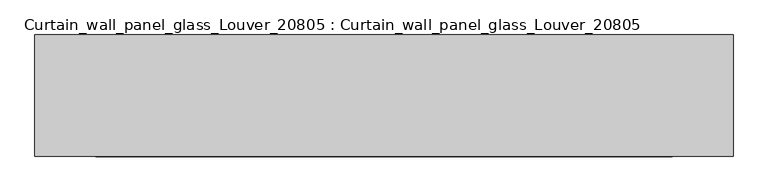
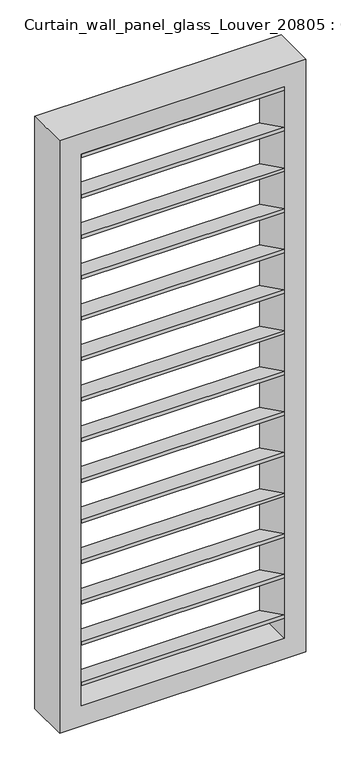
"""IFC4 building model written with IfcOpenShell, lengths in millimetres: plate geometry, Curtain_wall_panel_glass_Louver_20805 : Curtain_wall_panel_glass_Louver_20805."""

from ifc_helpers import new_model, si_unit, frame, origin, place, context, project, spatial, polyline, outline, extrude, source, transform, mapped, element, save


def curtain_wall_panel_glass_louver_20805_curtain_wall_panel_0dcabbaa(model_context):
    return source(origin(), model_context, "Body", "SweptSolid", [
        extrude(outline(polyline([(-200.0, 199.3849981), (-200.0, 216.1349309), (0.0, 116.7499328), (0.0, 100.0), (-200.0, 199.3849981)])), frame((-475.0000001, 0.0, 0.0), z_axis=(1.0, 0.0, 0.0), x_axis=(0.0, 1.0, 0.0)), (0.0, 0.0, 1.0), 950.0000001),
        extrude(outline(polyline([(-200.0, 2808.2500672), (-200.0, 2825.0), (0.0, 2725.6150019), (0.0, 2708.8650691), (-200.0, 2808.2500672)])), frame((-475.0000001, 0.0, 0.0), z_axis=(1.0, 0.0, 0.0), x_axis=(0.0, 1.0, 0.0)), (0.0, 0.0, 1.0), 950.0000001),
        extrude(outline(polyline([(-200.0, 400.0669265), (-200.0, 416.8168593), (0.0, 317.4318612), (0.0, 300.6819284), (-200.0, 400.0669265)])), frame((-475.0000001, 0.0, 0.0), z_axis=(1.0, 0.0, 0.0), x_axis=(0.0, 1.0, 0.0)), (0.0, 0.0, 1.0), 950.0000001),
        extrude(outline(polyline([(-200.0, 600.7488549), (-200.0, 617.4987877), (0.0, 518.1137896), (0.0, 501.3638568), (-200.0, 600.7488549)])), frame((-475.0000001, 0.0, 0.0), z_axis=(1.0, 0.0, 0.0), x_axis=(0.0, 1.0, 0.0)), (0.0, 0.0, 1.0), 950.0000001),
        extrude(outline(polyline([(-200.0, 801.4307833), (-200.0, 818.1807161), (0.0, 718.795718), (0.0, 702.0457852), (-200.0, 801.4307833)])), frame((-475.0000001, 0.0, 0.0), z_axis=(1.0, 0.0, 0.0), x_axis=(0.0, 1.0, 0.0)), (0.0, 0.0, 1.0), 950.0000001),
        extrude(outline(polyline([(-200.0, 1002.1127117), (-200.0, 1018.8626445), (0.0, 919.4776464), (0.0, 902.7277136), (-200.0, 1002.1127117)])), frame((-475.0000001, 0.0, 0.0), z_axis=(1.0, 0.0, 0.0), x_axis=(0.0, 1.0, 0.0)), (0.0, 0.0, 1.0), 950.0000001),
        extrude(outline(polyline([(-200.0, 1202.79464), (-200.0, 1219.5445729), (0.0, 1120.1595748), (0.0, 1103.4096419), (-200.0, 1202.79464)])), frame((-475.0000001, 0.0, 0.0), z_axis=(1.0, 0.0, 0.0), x_axis=(0.0, 1.0, 0.0)), (0.0, 0.0, 1.0), 950.0000001),
        extrude(outline(polyline([(-200.0, 1403.4765684), (-200.0, 1420.2265013), (0.0, 1320.8415032), (0.0, 1304.0915703), (-200.0, 1403.4765684)])), frame((-475.0000001, 0.0, 0.0), z_axis=(1.0, 0.0, 0.0), x_axis=(0.0, 1.0, 0.0)), (0.0, 0.0, 1.0), 950.0000001),
        extrude(outline(polyline([(-200.0, 1604.1584968), (-200.0, 1620.9084297), (0.0, 1521.5234316), (0.0, 1504.7734987), (-200.0, 1604.1584968)])), frame((-475.0000001, 0.0, 0.0), z_axis=(1.0, 0.0, 0.0), x_axis=(0.0, 1.0, 0.0)), (0.0, 0.0, 1.0), 950.0000001),
        extrude(outline(polyline([(-200.0, 1804.8404252), (-200.0, 1821.5903581), (0.0, 1722.20536), (0.0, 1705.4554271), (-200.0, 1804.8404252)])), frame((-475.0000001, 0.0, 0.0), z_axis=(1.0, 0.0, 0.0), x_axis=(0.0, 1.0, 0.0)), (0.0, 0.0, 1.0), 950.0000001),
        extrude(outline(polyline([(-200.0, 2005.5223536), (-200.0, 2022.2722864), (0.0, 1922.8872883), (0.0, 1906.1373555), (-200.0, 2005.5223536)])), frame((-475.0000001, 0.0, 0.0), z_axis=(1.0, 0.0, 0.0), x_axis=(0.0, 1.0, 0.0)), (0.0, 0.0, 1.0), 950.0000001),
        extrude(outline(polyline([(-200.0, 2206.204282), (-200.0, 2222.9542148), (0.0, 2123.5692167), (0.0, 2106.8192839), (-200.0, 2206.204282)])), frame((-475.0000001, 0.0, 0.0), z_axis=(1.0, 0.0, 0.0), x_axis=(0.0, 1.0, 0.0)), (0.0, 0.0, 1.0), 950.0000001),
        extrude(outline(polyline([(-200.0, 2406.8862104), (-200.0, 2423.6361432), (0.0, 2324.2511451), (0.0, 2307.5012123), (-200.0, 2406.8862104)])), frame((-475.0000001, 0.0, 0.0), z_axis=(1.0, 0.0, 0.0), x_axis=(0.0, 1.0, 0.0)), (0.0, 0.0, 1.0), 950.0000001),
        extrude(outline(polyline([(-200.0, 2607.5681388), (-200.0, 2624.3180716), (0.0, 2524.9330735), (0.0, 2508.1831407), (-200.0, 2607.5681388)])), frame((-475.0000001, 0.0, 0.0), z_axis=(1.0, 0.0, 0.0), x_axis=(0.0, 1.0, 0.0)), (0.0, 0.0, 1.0), 950.0000001),
        extrude(outline(polyline([(2925.0, -575.0000001), (0.0, -575.0000001), (0.0, 575.0000001), (2925.0, 575.0000001), (2925.0, -575.0000001)]), holes=[polyline([(2825.0, -475.0000001), (2825.0, 475.0000001), (100.0, 475.0000001), (100.0, -475.0000001), (2825.0, -475.0000001)])]), frame((0.0, -200.0, 0.0), z_axis=(0.0, 1.0, 0.0), x_axis=(0.0, 0.0, 1.0)), (0.0, 0.0, 1.0), 200.0),
    ])


if __name__ == "__main__":
    model = new_model("IFC4")
    model_context = context("Model", 3, world=origin())
    ifc_project = project(units=[si_unit("LENGTHUNIT", "METRE", prefix="MILLI")], contexts=[model_context])
    site = spatial("IfcSite", under=ifc_project)
    building = spatial("IfcBuilding", under=site)
    placement = place(None, origin())
    curtain_wall_panel_glass_louver_20805_curtain_wall_panel_shape = curtain_wall_panel_glass_louver_20805_curtain_wall_panel_0dcabbaa(model_context)
    element("IfcPlate", 1, ObjectType="Curtain_wall_panel_glass_Louver_20805 : Curtain_wall_panel_glass_Louver_20805", at=placement, inside=building, context=model_context, shape_type="MappedRepresentation", body=[
        mapped(curtain_wall_panel_glass_louver_20805_curtain_wall_panel_shape, transform((0.0, 0.0, 0.0), x_axis=(1.0, 0.0, 0.0), y_axis=(0.0, 1.0, 0.0), z_axis=(0.0, 0.0, 1.0))),
    ])
    save(model, "model.ifc")
